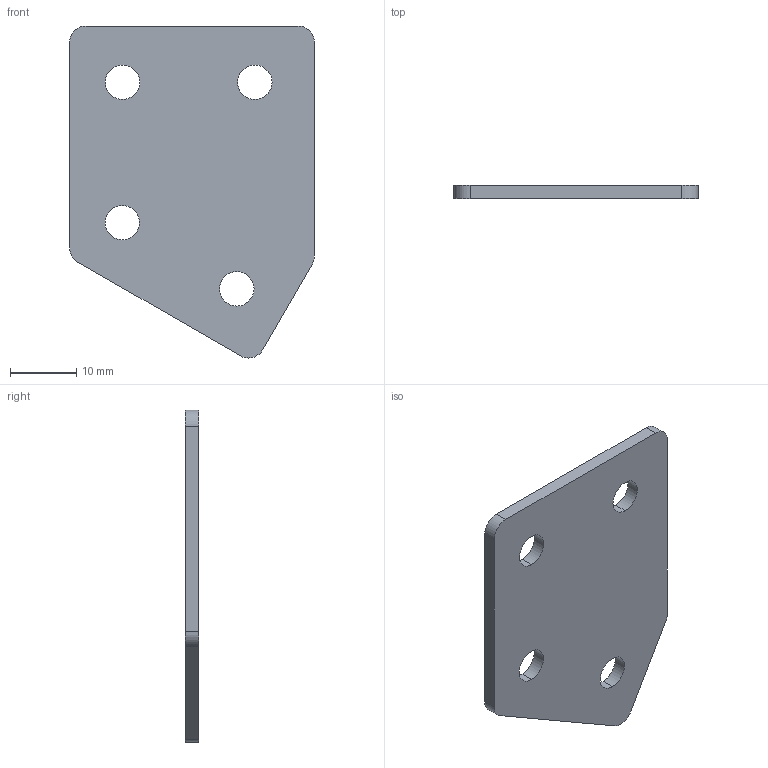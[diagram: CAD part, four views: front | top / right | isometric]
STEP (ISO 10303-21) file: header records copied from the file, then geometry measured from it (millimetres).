
FILE_DESCRIPTION (( 'STEP AP203' ), '1' );
FILE_NAME ('Ï-4-óãîë 30-20.STEP', '2016-07-23T16:05:08', ( '' ), ( '' ), 'SwSTEP 2.0', 'SolidWorks 2014', '' );
FILE_SCHEMA (( 'CONFIG_CONTROL_DESIGN' ));
Length unit declared in the file: millimetre
Products named in the file (1): Ï-4-óãîë 30-20
Bounding box: 37 x 2 x 50.18 mm (x, y, z)
Surface area: 3448.4 mm2 (no closed solid volume)
Topology: 0 solids, 1 shells, 20 faces, 54 edges, 36 vertices
Faces by surface type: cylinder 13, plane 7
Entity records: 737 total; most frequent: DIRECTION 122, CARTESIAN_POINT 111, ORIENTED_EDGE 108, EDGE_CURVE 54, AXIS2_PLACEMENT_3D 47, VERTEX_POINT 36, EDGE_LOOP 28, VECTOR 28
